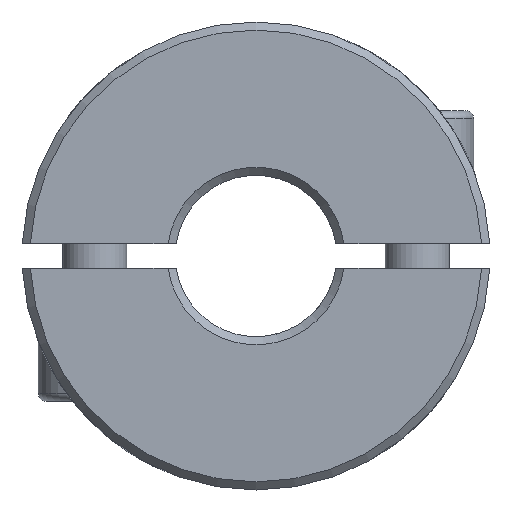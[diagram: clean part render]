
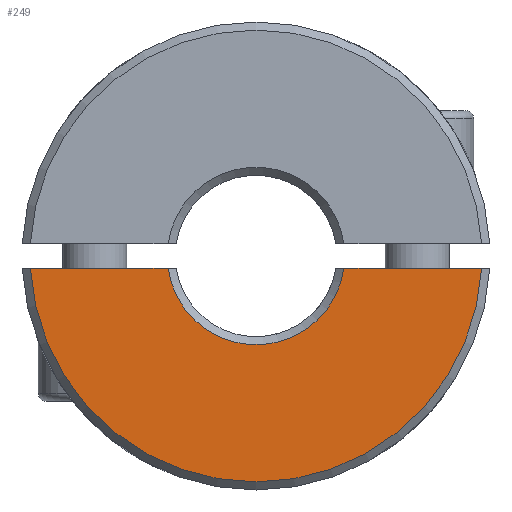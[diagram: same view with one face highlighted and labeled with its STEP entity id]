
A CAD part, front view. The second image highlights one B-rep face of the part: STEP entity #249.
In plain terms, the highlighted planar face has unit normal (0, -1, 0).
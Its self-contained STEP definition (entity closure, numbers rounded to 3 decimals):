
#249 = ADVANCED_FACE( '', ( #493 ), #494, .F. );
#493 = FACE_OUTER_BOUND( '', #829, .T. );
#494 = PLANE( '', #830 );
#829 = EDGE_LOOP( '', ( #1182, #1183, #1184, #1185 ) );
#830 = AXIS2_PLACEMENT_3D( '', #1186, #1187, #1188 );
#1182 = ORIENTED_EDGE( '', *, *, #1825, .F. );
#1183 = ORIENTED_EDGE( '', *, *, #1809, .T. );
#1184 = ORIENTED_EDGE( '', *, *, #1826, .F. );
#1185 = ORIENTED_EDGE( '', *, *, #1827, .T. );
#1186 = CARTESIAN_POINT( '', ( 0., -45., 0. ) );
#1187 = DIRECTION( '', ( 0., 1., 0. ) );
#1188 = DIRECTION( '', ( 0., 0., 1. ) );
#1809 = EDGE_CURVE( '', #2071, #2068, #2072, .F. );
#1825 = EDGE_CURVE( '', #2071, #2098, #2099, .T. );
#1826 = EDGE_CURVE( '', #2100, #2068, #2101, .T. );
#1827 = EDGE_CURVE( '', #2100, #2098, #2102, .T. );
#2068 = VERTEX_POINT( '', #2494 );
#2071 = VERTEX_POINT( '', #2500 );
#2072 = CIRCLE( '', #2501, 14. );
#2098 = VERTEX_POINT( '', #2537 );
#2099 = LINE( '', #2538, #2539 );
#2100 = VERTEX_POINT( '', #2540 );
#2101 = LINE( '', #2541, #2542 );
#2102 = CIRCLE( '', #2543, 5.5 );
#2494 = CARTESIAN_POINT( '', ( 13.98, -45., -0.75 ) );
#2500 = CARTESIAN_POINT( '', ( -13.98, -45., -0.75 ) );
#2501 = AXIS2_PLACEMENT_3D( '', #3855, #3856, #3857 );
#2537 = CARTESIAN_POINT( '', ( -5.449, -45., -0.75 ) );
#2538 = CARTESIAN_POINT( '', ( 0., -45., -0.75 ) );
#2539 = VECTOR( '', #3880, 1000. );
#2540 = CARTESIAN_POINT( '', ( 5.449, -45., -0.75 ) );
#2541 = CARTESIAN_POINT( '', ( 0., -45., -0.75 ) );
#2542 = VECTOR( '', #3881, 1000. );
#2543 = AXIS2_PLACEMENT_3D( '', #3882, #3883, #3884 );
#3855 = CARTESIAN_POINT( '', ( 0., -45., 0. ) );
#3856 = DIRECTION( '', ( 0., 1., 0. ) );
#3857 = DIRECTION( '', ( 0., 0., 1. ) );
#3880 = DIRECTION( '', ( 1., 0., 0. ) );
#3881 = DIRECTION( '', ( 1., 0., 0. ) );
#3882 = CARTESIAN_POINT( '', ( 0., -45., 0. ) );
#3883 = DIRECTION( '', ( 0., 1., 0. ) );
#3884 = DIRECTION( '', ( 0., 0., 1. ) );
